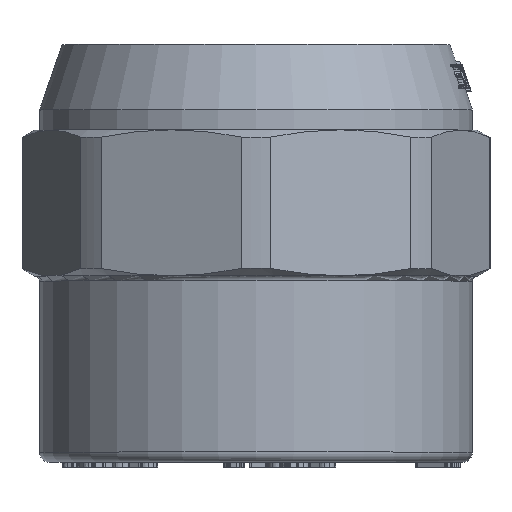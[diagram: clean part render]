
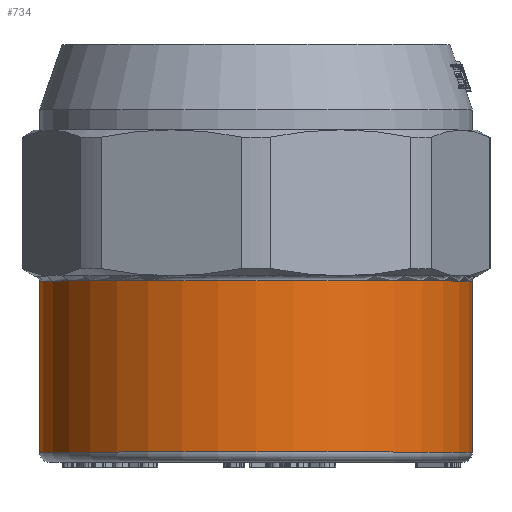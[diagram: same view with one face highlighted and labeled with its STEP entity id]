
A CAD part, top view. The second image highlights one B-rep face of the part: STEP entity #734.
In plain terms, the highlighted cylindrical face has radius 21.5 mm (diameter 43 mm), a full revolution.
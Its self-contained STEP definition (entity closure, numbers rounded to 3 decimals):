
#734=ADVANCED_FACE('',(#4316,#4318),#4320,.T.);
#4316=FACE_OUTER_BOUND('',#4317,.T.);
#4317=EDGE_LOOP('',(#10582));
#4318=FACE_OUTER_BOUND('',#4319,.T.);
#4319=EDGE_LOOP('',(#10583));
#4320=CYLINDRICAL_SURFACE('',#4321,21.5);
#4321=AXIS2_PLACEMENT_3D('',#4322,#4323,#4324);
#4322=CARTESIAN_POINT('',(0.,0.,0.));
#4323=DIRECTION('',(0.,1.,0.));
#4324=DIRECTION('',(-1.,0.,0.));
#10582=ORIENTED_EDGE('',*,*,#14837,.F.);
#10583=ORIENTED_EDGE('',*,*,#13936,.T.);
#13936=EDGE_CURVE('',#16823,#16823,#16824,.T.);
#14837=EDGE_CURVE('',#18176,#18176,#18177,.T.);
#16823=VERTEX_POINT('',#21908);
#16824=CIRCLE('',#21909,21.5);
#18176=VERTEX_POINT('',#25065);
#18177=CIRCLE('',#25066,21.5);
#21908=CARTESIAN_POINT('',(-21.5,1.,0.));
#21909=AXIS2_PLACEMENT_3D('',#21910,#21911,#21912);
#21910=CARTESIAN_POINT('',(0.,1.,0.));
#21911=DIRECTION('',(0.,1.,0.));
#21912=DIRECTION('',(-1.,0.,0.));
#25065=CARTESIAN_POINT('',(-21.5,18.,0.));
#25066=AXIS2_PLACEMENT_3D('',#25067,#25068,#25069);
#25067=CARTESIAN_POINT('',(0.,18.,0.));
#25068=DIRECTION('',(0.,1.,0.));
#25069=DIRECTION('',(-1.,0.,0.));
